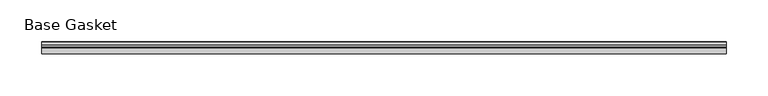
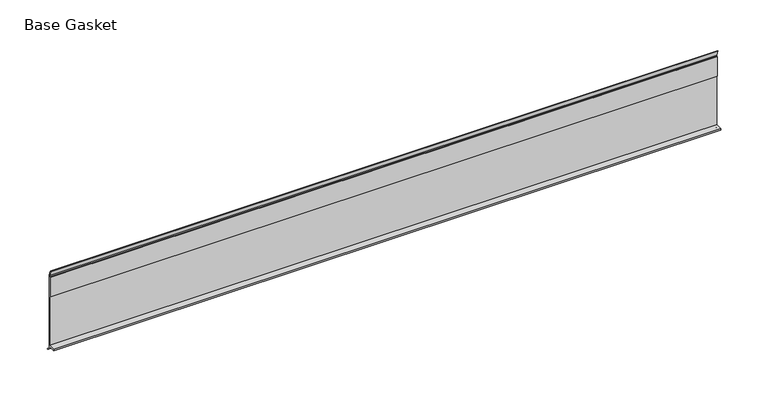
"""IFC4 building model written with IfcOpenShell, lengths in millimetres: furniture geometry, Gasket-Teknion-FHGB-AI_Healthcare-R2021 : Base Gasket."""

from ifc_helpers import new_model, si_unit, frame, origin, place, context, project, spatial, polyline, outline, extrude, source, transform, mapped, element, save


def base_gasket_c2faf581(model_context):
    return source(origin(), model_context, "Body", "SweptSolid", [
        extrude(outline(polyline([(3.7283812, 98.4568417), (3.7283812, 4.3498477), (7.4222115, 0.6560174), (7.8482342, 0.0), (6.8281054, 0.3520979), (2.2043812, 4.3498477), (2.1334222, 6.3818476), (-6.2405171, 6.3818476), (-6.2405171, 7.9398773), (2.2043812, 7.9398773), (2.2043812, 71.4693447), (1.4106313, 71.4693447), (1.4106313, 96.8693477), (2.2043812, 96.8693477), (2.2043812, 98.4568417), (0.6755308, 104.4162708), (0.6755308, 105.2002997), (1.1891543, 104.587663), (3.7283812, 98.4568417)])), frame((-1527.8982117, 0.0, 0.0), z_axis=(1.0, 0.0, 0.0), x_axis=(0.0, 1.0, 0.0)), (0.0, 0.0, 1.0), 816.4756656),
    ])


if __name__ == "__main__":
    model = new_model("IFC4")
    model_context = context("Model", 3, world=origin())
    ifc_project = project(units=[si_unit("LENGTHUNIT", "METRE", prefix="MILLI")], contexts=[model_context])
    site = spatial("IfcSite", under=ifc_project)
    building = spatial("IfcBuilding", under=site)
    placement = place(None, origin())
    base_gasket_shape = base_gasket_c2faf581(model_context)
    element("IfcFurniture", 1, ObjectType="Gasket-Teknion-FHGB-AI_Healthcare-R2021 : Base Gasket", at=placement, inside=building, context=model_context, shape_type="MappedRepresentation", body=[
        mapped(base_gasket_shape, transform((0.0, 0.0, 0.0), x_axis=(1.0, 0.0, 0.0), y_axis=(0.0, 1.0, 0.0), z_axis=(0.0, 0.0, 1.0))),
    ])
    save(model, "model.ifc")
